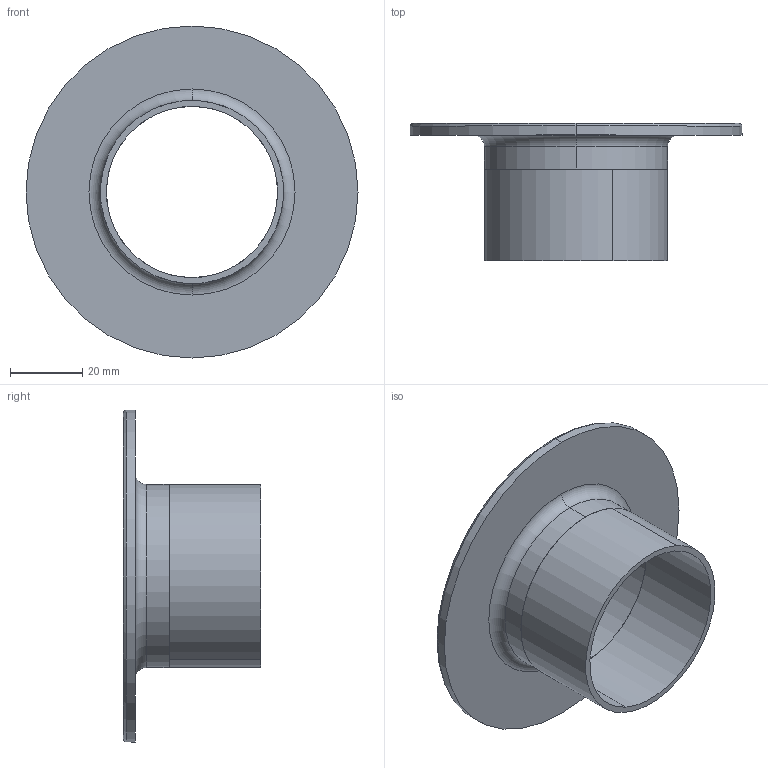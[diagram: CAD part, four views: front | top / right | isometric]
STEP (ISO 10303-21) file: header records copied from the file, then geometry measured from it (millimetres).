
FILE_DESCRIPTION (( 'STEP AP203' ), '1' );
FILE_NAME ('E14WA2.0.STEP', '2018-05-04T18:12:43', ( 'vneprd' ), ( 'Microsoft' ), 'SwSTEP 2.0', 'SolidWorks 2014', '' );
FILE_SCHEMA (( 'CONFIG_CONTROL_DESIGN' ));
Length unit declared in the file: inch
Products named in the file (3): V14WAB2.0; E14WA2.0; TUBE2.0X1.0
Assembly tree (2 placements, depth 2):
  E14WA2.0
    V14WAB2.0
    TUBE2.0X1.0
Bounding box: 92.08 x 38.1 x 92.08 mm (x, y, z)
Volume: 23437.2 mm3; surface area: 26919.8 mm2
Topology: 2 solids, 2 shells, 114 faces, 228 edges, 118 vertices
Faces by surface type: cone 98, cylinder 10, plane 4, torus 2
Entity records: 3195 total; most frequent: DIRECTION 586, CARTESIAN_POINT 465, ORIENTED_EDGE 456, AXIS2_PLACEMENT_3D 239, EDGE_CURVE 228, CIRCLE 120, VERTEX_POINT 118, EDGE_LOOP 118
